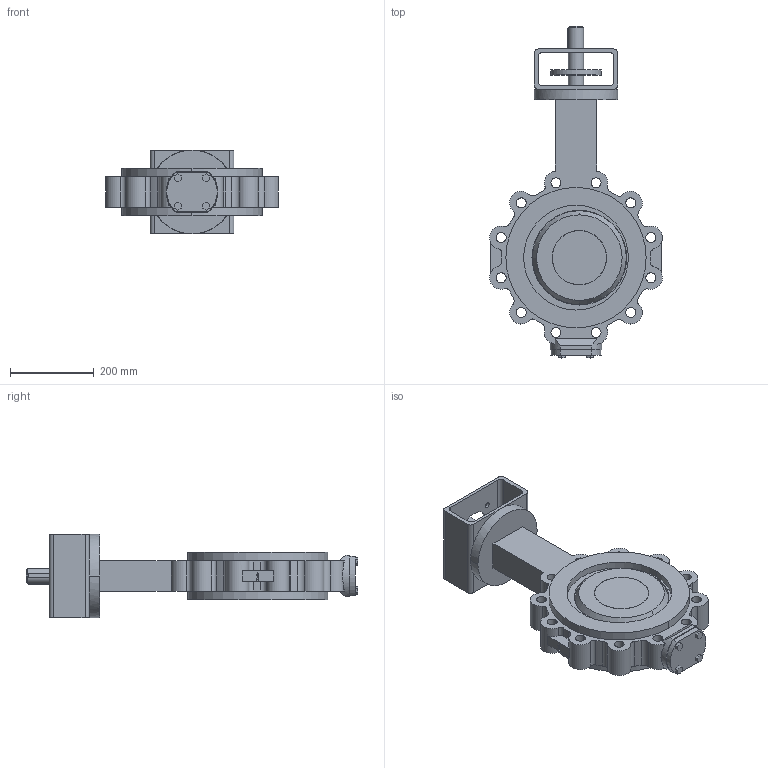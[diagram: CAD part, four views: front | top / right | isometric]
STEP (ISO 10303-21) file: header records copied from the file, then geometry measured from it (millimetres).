
FILE_DESCRIPTION( ( '' ), '1' );
FILE_NAME( 'F:/DE-SHS/TB/OR/04-Sonstiges/daten/files_3d/018_ZETRIX-PN10_freiesWellende/c000006372.stp', '2016-09-01T11:05:10', ( '' ), ( '' ), ' ', ' ', ' ' );
FILE_SCHEMA( ( 'CONFIG_CONTROL_DESIGN' ) );
Length unit declared in the file: millimetre
Products named in the file (1): 1
Bounding box: 412.36 x 792.4 x 200 mm (x, y, z)
Volume: 12112996.2 mm3; surface area: 930837.5 mm2
Topology: 1 solids, 1 shells, 271 faces, 740 edges, 492 vertices
Faces by surface type: cylinder 158, plane 105, sphere 4, cone 4
Entity records: 9590 total; most frequent: CARTESIAN_POINT 2304, DIRECTION 1596, ORIENTED_EDGE 1480, EDGE_CURVE 740, AXIS2_PLACEMENT_3D 616, VERTEX_POINT 492, LINE 364, VECTOR 364
